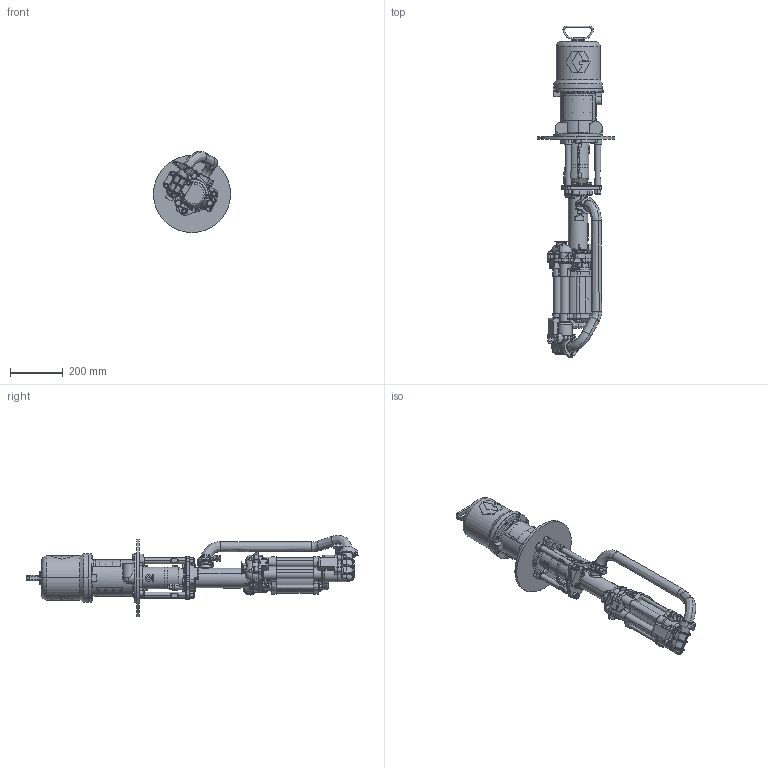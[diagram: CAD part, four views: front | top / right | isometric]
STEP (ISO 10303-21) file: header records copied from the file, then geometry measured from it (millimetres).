
FILE_DESCRIPTION((''),'2;1');
FILE_NAME('17E222-EN-F_PRT','2020-03-05T07:24:01',('qusrh3'),(''),'CREO PARAMETRIC BY PTC INC, 2019030','CREO PARAMETRIC BY PTC INC, 2019030','');
FILE_SCHEMA(('CONFIG_CONTROL_DESIGN'));
Products named in the file (1): 17E222-EN-F_PRT
Bounding box: 292.1 x 1256.67 x 307.18 mm (x, y, z)
Surface area: 1213117.1 mm2 (no closed solid volume)
Topology: 0 solids, 199 shells, 2617 faces, 7656 edges, 5044 vertices
Faces by surface type: cylinder 815, plane 779, bspline 398, torus 330, cone 221, sphere 49, extrusion 25
Entity records: 114692 total; most frequent: CARTESIAN_POINT 51357, ORIENTED_EDGE 12722, DIRECTION 12377, EDGE_CURVE 7637, VERTEX_POINT 5044, AXIS2_PLACEMENT_3D 4732, VECTOR 2913, LINE 2888
